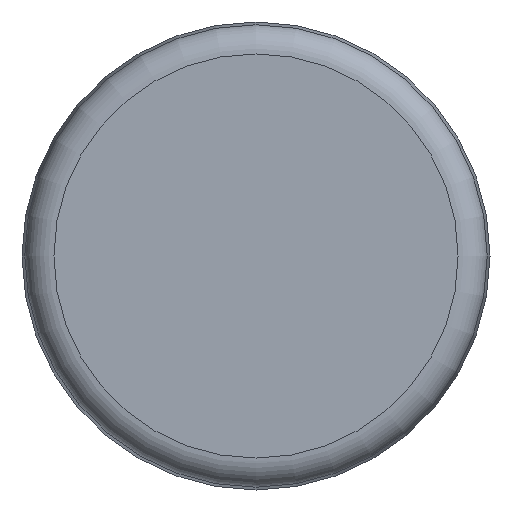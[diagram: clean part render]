
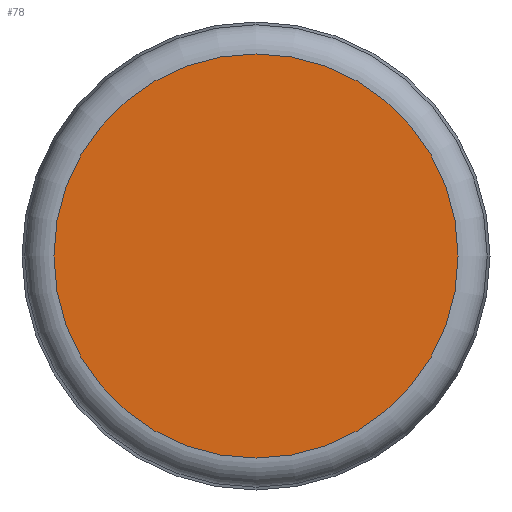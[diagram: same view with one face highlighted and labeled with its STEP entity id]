
A CAD part, front view. The second image highlights one B-rep face of the part: STEP entity #78.
In plain terms, the highlighted planar face has unit normal (0, -1, 0).
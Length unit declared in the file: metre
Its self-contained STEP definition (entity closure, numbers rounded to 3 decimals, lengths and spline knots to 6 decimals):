
#78 = ADVANCED_FACE( '', ( #93 ), #94, .T. );
#93 = FACE_OUTER_BOUND( '', #124, .T. );
#94 = PLANE( '', #125 );
#124 = EDGE_LOOP( '', ( #157 ) );
#125 = AXIS2_PLACEMENT_3D( '', #158, #159, #160 );
#157 = ORIENTED_EDGE( '', *, *, #206, .T. );
#158 = CARTESIAN_POINT( '', ( 0., 0., 0. ) );
#159 = DIRECTION( '', ( 0., -1., 0. ) );
#160 = DIRECTION( '', ( 0., 0., -1. ) );
#206 = EDGE_CURVE( '', #217, #217, #218, .T. );
#217 = VERTEX_POINT( '', #237 );
#218 = CIRCLE( '', #238, 0.013817 );
#237 = CARTESIAN_POINT( '', ( 0., 0., -0.013817 ) );
#238 = AXIS2_PLACEMENT_3D( '', #258, #259, #260 );
#258 = CARTESIAN_POINT( '', ( 0., 0., 0. ) );
#259 = DIRECTION( '', ( 0., -1., 0. ) );
#260 = DIRECTION( '', ( 0., 0., -1. ) );
